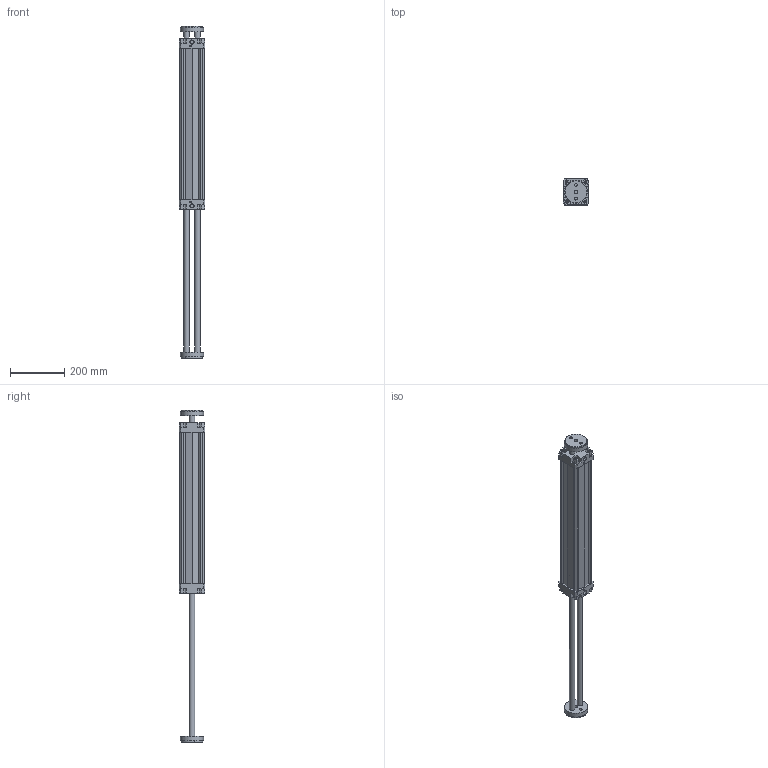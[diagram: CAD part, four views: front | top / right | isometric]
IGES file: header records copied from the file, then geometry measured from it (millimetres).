
Global section: file name: 132#_080_0500_06; native system: Autodesk Inventor 2014; preprocessor: unknown; author: A. Manieri; date: 20161006.162543; units: millimetre
Bounding box: 95 x 95 x 1220 mm (x, y, z)
Volume: 2783181.4 mm3; surface area: 620599.4 mm2
Topology: 2 solids, 2 shells, 190 faces, 518 edges, 354 vertices
Faces by surface type: bspline 190
